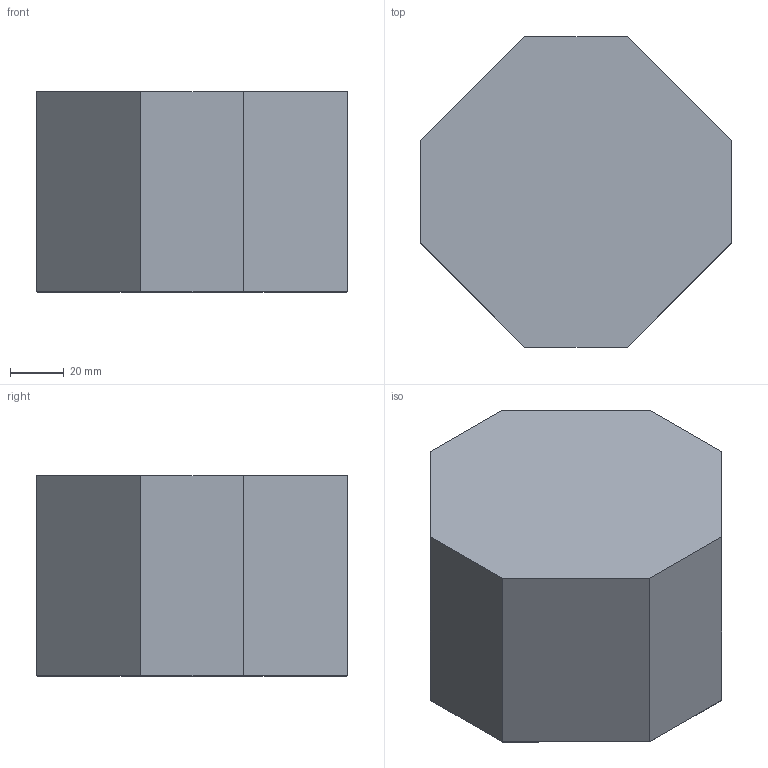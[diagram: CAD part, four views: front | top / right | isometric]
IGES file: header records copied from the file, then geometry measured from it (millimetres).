
Start section: Iges File created by ES
Global section: native system: ES; preprocessor: IGES.4B00; organization: JingDiao; units: millimetre
Bounding box: 116 x 116 x 75 mm (x, y, z)
Surface area: 49536 mm2 (no closed solid volume)
Topology: 0 solids, 0 shells, 26 faces, 220 edges, 216 vertices
Faces by surface type: bspline 22, revolution 4
